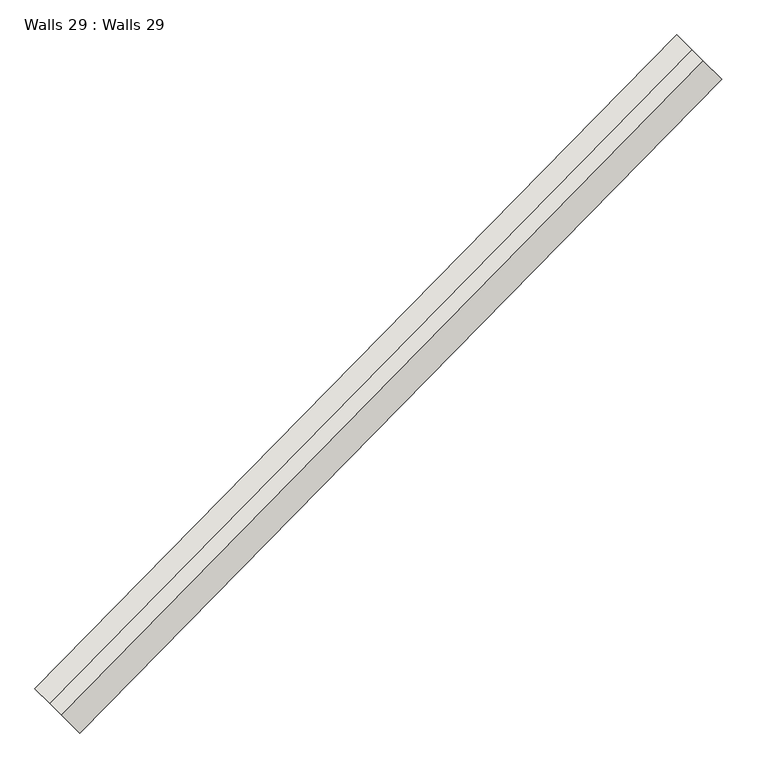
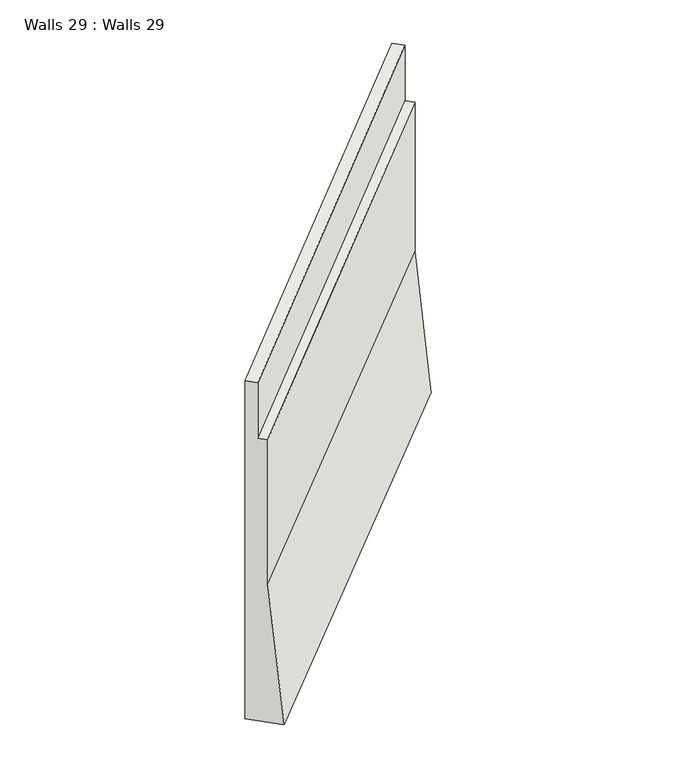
"""IFC4 building model written with IfcOpenShell, lengths in millimetres: wall geometry, Walls 29 : Walls 29."""

from ifc_helpers import new_model, si_unit, origin, place, context, project, spatial, faceted_brep, source, transform, mapped, element, save


def walls_29_walls_29_519116fe(model_context):
    return source(origin(), model_context, "Body", "Brep", [
        faceted_brep([(-215226.8431413, -374663.7594985, 641800.0), (-215226.8431413, -374663.7594985, 635700.0), (-214798.6226613, -375084.0324096, 635700.0), (-214977.0491359, -374908.9174457, 638200.0), (-214977.0491359, -374908.9174457, 640800.0), (-215084.1037096, -374803.849754, 640800.0), (-215084.1037096, -374803.849754, 641800.0), (-209132.9036981, -368454.580644, 641990.0), (-208990.1642664, -368594.6708996, 641990.0), (-208990.1642664, -368594.6708996, 640990.0), (-208883.1096927, -368699.7385913, 640990.0), (-208883.1096927, -368699.7385913, 638290.0), (-208704.6832181, -368874.8535552, 635790.0), (-209132.9036981, -368454.580644, 635790.0)], [[[0, 1, 2, 3, 4, 5, 6]], [[7, 8, 9, 10, 11, 12, 13]], [[7, 13, 1, 0]], [[13, 12, 2, 1]], [[12, 11, 3, 2]], [[11, 10, 4, 3]], [[10, 9, 5, 4]], [[9, 8, 6, 5]], [[8, 7, 0, 6]]]),
    ])


if __name__ == "__main__":
    model = new_model("IFC4")
    model_context = context("Model", 3, world=origin())
    ifc_project = project(units=[si_unit("LENGTHUNIT", "METRE", prefix="MILLI")], contexts=[model_context])
    site = spatial("IfcSite", under=ifc_project)
    building = spatial("IfcBuilding", under=site)
    placement = place(None, origin())
    walls_29_walls_29_shape = walls_29_walls_29_519116fe(model_context)
    element("IfcWall", 1, ObjectType="Walls 29 : Walls 29", at=placement, inside=building, context=model_context, shape_type="MappedRepresentation", body=[
        mapped(walls_29_walls_29_shape, transform((0.0, 0.0, 0.0), x_axis=(1.0, 0.0, 0.0), y_axis=(0.0, 1.0, 0.0), z_axis=(0.0, 0.0, 1.0))),
    ])
    save(model, "model.ifc")
